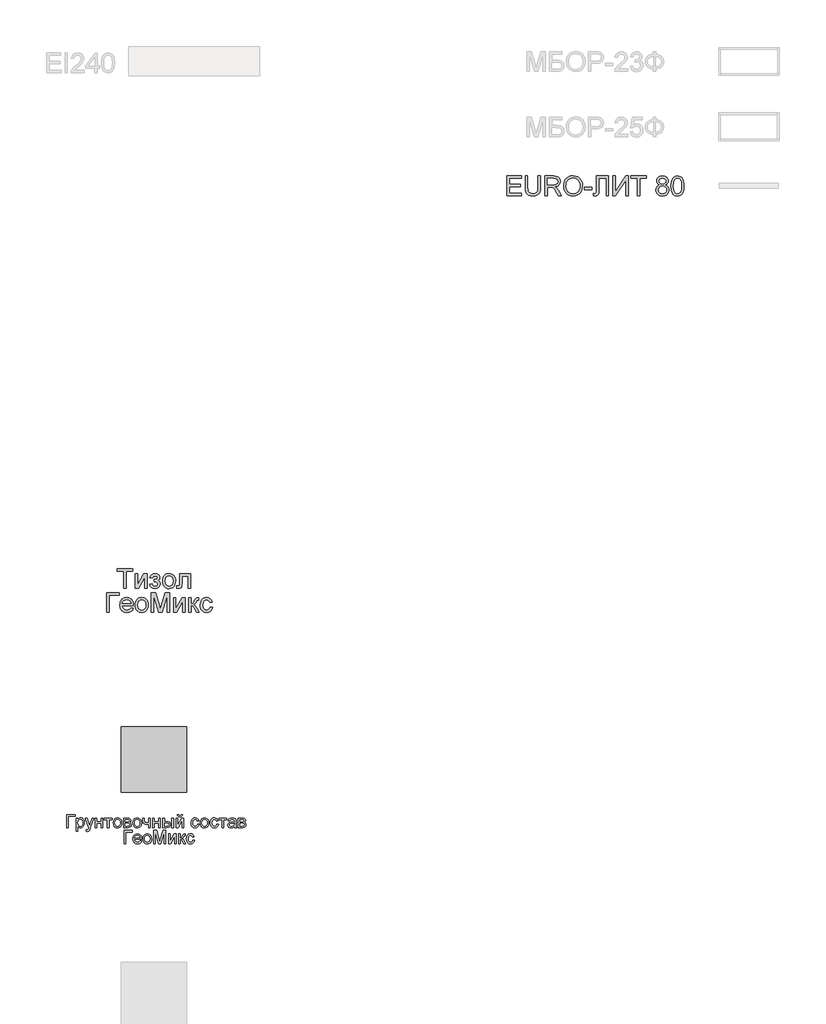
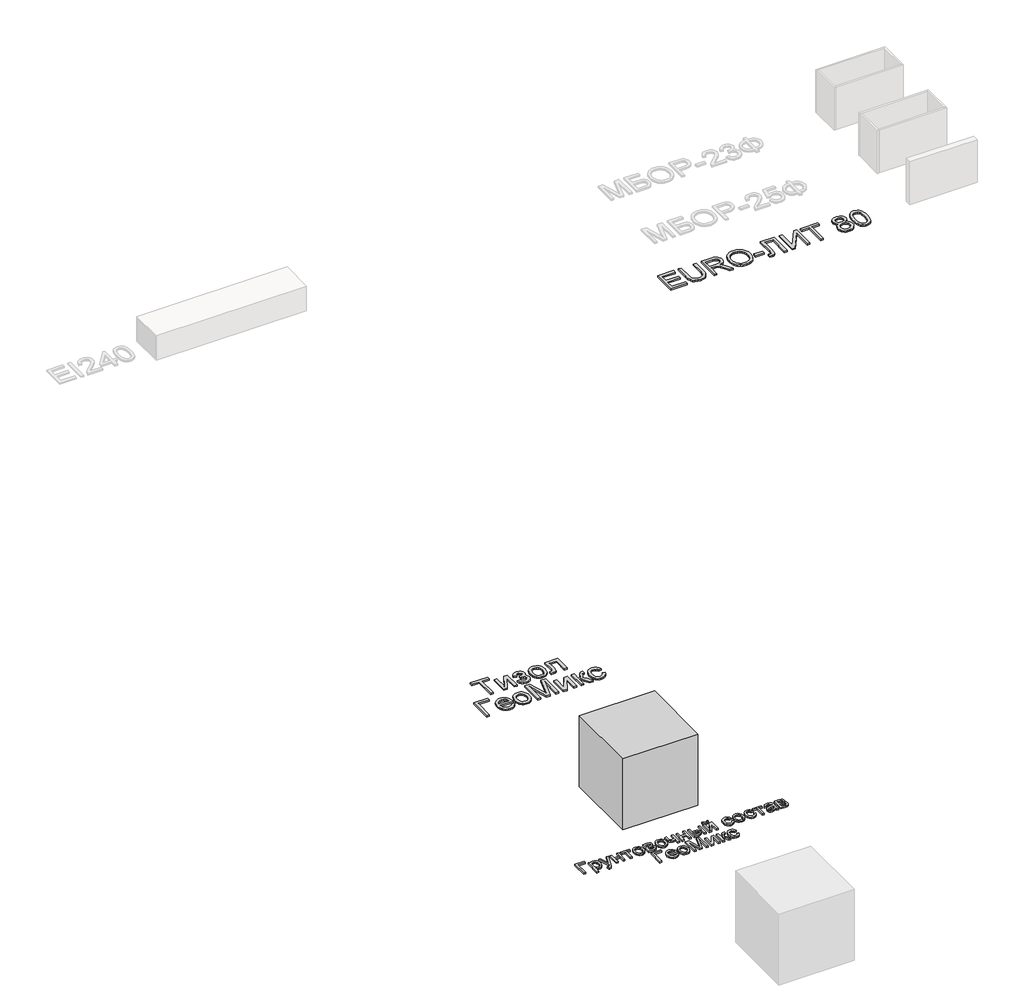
# One storey, part 10 of 35: 4 proxies.
"""IFC4 building model written with IfcOpenShell, lengths in millimetres."""

from ifc_helpers import new_model, si_unit, origin, origin_with_axes, place, context, project, spatial, polyline, outline, extrude, transform, mapped, element, save
from components import generic_models_0168a45e

model = new_model("IFC4")

# Units and contexts
model_context = context("Model", 3, world=origin())
ifc_project = project(units=[si_unit("LENGTHUNIT", "METRE", prefix="MILLI")], contexts=[model_context])

# Site, building, storey
site = spatial("IfcSite", under=ifc_project)
building = spatial("IfcBuilding", under=site)
storey = spatial("IfcBuildingStorey", under=building, Name="Этаж 01", Elevation=0.0)

# Proxies
placement = place(None, origin())
element("IfcBuildingElementProxy", 1, Name="600 мм Arial", ObjectType="600 мм Arial", at=placement, inside=storey, context=model_context, shape_type="SweptSolid", body=[
    extrude(outline(polyline([(7300.4326511, -57210.4960856), (7300.4326511, -56909.1271552), (7517.0415699, -56909.1271552), (7517.0415699, -56946.7982715), (7338.1037674, -56946.7982715), (7338.1037674, -57036.2671727), (7507.6237908, -57036.2671727), (7507.6237908, -57073.938289), (7338.1037674, -57073.938289), (7338.1037674, -57172.8249693), (7521.7504594, -57172.8249693), (7521.7504594, -57210.4960856), (7300.4326511, -57210.4960856)])), origin_with_axes(), (0.0, 0.0, 1.0), 20.0),
    extrude(outline(polyline([(7776.0304945, -56909.1271552), (7813.7016108, -56909.1271552), (7813.7016108, -57082.9881861), (7811.1448309, -57123.7035259), (7803.4744913, -57155.056269), (7789.1454876, -57179.2445102), (7766.6127154, -57198.4663444), (7735.8209924, -57211.0203175), (7696.7151363, -57215.2049752), (7658.4646059, -57211.5629434), (7627.884415, -57200.6368482), (7604.9653667, -57182.8037685), (7589.6982639, -57158.4407833), (7581.1174164, -57125.7636651), (7578.2571339, -57082.9881861), (7578.2571339, -56909.1271552), (7615.9282502, -56909.1271552), (7615.9282502, -57081.6638109), (7617.7860542, -57115.5181515), (7623.3594665, -57139.0901904), (7633.4578272, -57155.4149539), (7648.8904769, -57167.5274686), (7669.0136221, -57175.0322613), (7693.1834692, -57177.5338589), (7731.498379, -57172.585846), (7745.8411782, -57166.40083), (7756.9742071, -57157.7418075), (7765.3113328, -57145.5649135), (7771.2664226, -57128.8262827), (7776.0304945, -57081.6638109), (7776.0304945, -56909.1271552)])), origin_with_axes(), (0.0, 0.0, 1.0), 20.0),
    extrude(outline(polyline([(7879.6260643, -57210.4960856), (7879.6260643, -56909.1271552), (8009.4884086, -56909.1271552), (8044.3912129, -56911.1597032), (8069.7842676, -56917.2573473), (8088.3439143, -56928.5145363), (8102.7464944, -56946.0257193), (8111.9895295, -56967.7399541), (8115.0705412, -56991.6062985), (8109.9661785, -57021.2943755), (8094.6530905, -57045.905681), (8083.0533113, -57055.9350639), (8068.6714246, -57063.9502929), (8031.5613283, -57073.938289), (8052.9720604, -57090.0515204), (8083.506266, -57128.8262827), (8133.7589466, -57210.4960856), (8089.9809892, -57210.4960856), (8050.7647685, -57148.0297229), (8022.4378548, -57106.6797866), (8002.5354389, -57087.1452527), (7984.6195857, -57079.9715538), (7962.7673952, -57078.6471786), (7917.2971806, -57078.6471786), (7917.2971806, -57210.4960856), (7879.6260643, -57210.4960856)]), holes=[polyline([(7917.2971806, -57040.9760623), (8001.6157339, -57040.9760623), (8025.8315662, -57039.64249), (8044.6211392, -57035.6417733), (8058.7662019, -57028.7071977), (8069.0485036, -57018.5720488), (8075.3116946, -57006.3123813), (8077.3994249, -56993.0042501), (8073.4171023, -56974.6285444), (8061.4701345, -56959.8212941), (8040.914728, -56950.0540272), (8011.1070894, -56946.7982715), (7917.2971806, -56946.7982715), (7917.2971806, -57040.9760623)])]), origin_with_axes(), (0.0, 0.0, 1.0), 20.0),
    extrude(outline(polyline([(8166.8683261, -57063.784746), (8169.3791208, -57028.4358848), (8176.9115046, -56997.1429225), (8189.4654777, -56969.9058593), (8207.04104, -56946.7246951), (8228.5851294, -56928.2156322), (8253.0446835, -56914.994873), (8280.4197025, -56907.0624175), (8310.7101863, -56904.4182657), (8350.2391066, -56909.3846726), (8385.6845369, -56924.2838934), (8415.1150965, -56948.0674644), (8436.599405, -56979.6869219), (8449.7327922, -57017.6155556), (8454.110588, -57060.3266552), (8449.502866, -57103.607972), (8435.6797, -57142.0700345), (8413.4044452, -57173.7446743), (8383.4404567, -57196.6637226), (8348.2985291, -57210.569662), (8310.4894571, -57215.2049752), (8270.3535314, -57210.0822184), (8234.7057661, -57194.7139481), (8205.3487828, -57170.4889187), (8184.0852035, -57138.7958848), (8171.1725455, -57102.329582), (8166.8683261, -57063.784746)]), holes=[polyline([(8204.5394425, -57064.152628), (8206.4225384, -57089.1272169), (8212.0718263, -57111.2967056), (8221.4873061, -57130.6610942), (8234.6689779, -57147.2203825), (8250.692538, -57160.4825284), (8268.6336831, -57169.9554898), (8288.492413, -57175.6392666), (8310.2687279, -57177.5338589), (8332.4175232, -57175.6208725), (8352.510778, -57169.8819134), (8370.548492, -57160.3169815), (8386.5306655, -57146.9260769), (8399.6157682, -57130.0173007), (8408.9622701, -57109.8987541), (8414.5701713, -57086.570437), (8416.4394717, -57060.0323496), (8413.2388983, -57026.6838468), (8403.6371782, -56997.8602924), (8387.8826318, -56974.2882536), (8366.2235793, -56956.6942972), (8340.0947606, -56945.7406108), (8310.9309155, -56942.089382), (8289.911058, -56943.8483178), (8270.4087137, -56949.1251251), (8252.4238827, -56957.9198041), (8235.9565648, -56970.2323546), (8222.2115738, -56986.6559864), (8212.3937231, -57007.7839093), (8206.5030126, -57033.6161231), (8204.5394425, -57064.152628)])]), origin_with_axes(), (0.0, 0.0, 1.0), 20.0),
    extrude(outline(polyline([(8482.3639252, -57121.0271844), (8482.3639252, -57083.3560681), (8600.0861637, -57083.3560681), (8600.0861637, -57121.0271844), (8482.3639252, -57121.0271844)])), origin_with_axes(), (0.0, 0.0, 1.0), 20.0),
    extrude(outline(polyline([(8670.7195067, -56909.1271552), (8854.3661987, -56909.1271552), (8854.3661987, -57210.4960856), (8816.6950824, -57210.4960856), (8816.6950824, -56946.7982715), (8708.390623, -56946.7982715), (8708.390623, -57100.5729455), (8704.0128273, -57169.1829376), (8697.2346015, -57188.5703187), (8685.6555157, -57203.1016575), (8669.7998018, -57212.1791458), (8650.1916914, -57215.2049752), (8618.9217218, -57210.4960856), (8623.6306114, -57172.8249693), (8641.6568291, -57177.5338589), (8654.3947432, -57175.0046702), (8663.4722314, -57167.417104), (8668.9076879, -57150.448547), (8670.7195067, -57119.7763856), (8670.7195067, -56909.1271552)])), origin_with_axes(), (0.0, 0.0, 1.0), 20.0),
    extrude(outline(polyline([(8920.2906523, -56909.1271552), (8957.9617686, -56909.1271552), (8957.9617686, -57147.8089937), (9115.7095681, -56909.1271552), (9155.7351292, -56909.1271552), (9155.7351292, -57210.4960856), (9118.0640129, -57210.4960856), (9118.0640129, -56972.4764348), (8960.6840953, -57210.4960856), (8920.2906523, -57210.4960856), (8920.2906523, -56909.1271552)])), origin_with_axes(), (0.0, 0.0, 1.0), 20.0),
    extrude(outline(polyline([(9297.0018153, -57210.4960856), (9297.0018153, -56946.7982715), (9198.115135, -56946.7982715), (9198.115135, -56909.1271552), (9433.5596119, -56909.1271552), (9433.5596119, -56946.7982715), (9334.6729316, -56946.7982715), (9334.6729316, -57210.4960856), (9297.0018153, -57210.4960856)])), origin_with_axes(), (0.0, 0.0, 1.0), 20.0),
    extrude(outline(polyline([(9634.4231813, -57044.5077294), (9614.2540509, -57034.5749156), (9600.0997912, -57021.1104345), (9591.7396728, -57004.3901979), (9588.9529667, -56984.690117), (9590.4704799, -56969.3264452), (9595.0230196, -56955.2411633), (9602.6105858, -56942.4342713), (9613.2331784, -56930.9057693), (9626.3803612, -56921.3776256), (9641.5416979, -56914.5718087), (9677.9068331, -56909.1271552), (9714.4926976, -56914.7005674), (9729.8195812, -56921.6673327), (9743.1690991, -56931.4208041), (9753.9848297, -56943.1746339), (9761.7103516, -56956.1424742), (9766.3456648, -56970.3243251), (9767.8907692, -56985.7201866), (9765.1408512, -57004.785671), (9756.8910975, -57021.2207991), (9743.0495374, -57034.6025067), (9723.5242005, -57044.5077294), (9746.7099633, -57056.4546972), (9763.5865498, -57074.0486536), (9773.8780486, -57096.4434701), (9777.3085482, -57122.793018), (9775.607094, -57141.5825909), (9770.5027313, -57158.8086653), (9761.9954602, -57174.4712413), (9750.0852806, -57188.5703187), (9735.3975919, -57200.2229809), (9718.5577936, -57208.5463111), (9699.5658856, -57213.5403092), (9678.4218679, -57215.2049752), (9657.2778503, -57213.5334114), (9638.2859423, -57208.5187199), (9621.4461439, -57200.1609008), (9606.7584553, -57188.4599541), (9594.8482757, -57174.2620084), (9586.3410045, -57158.4131922), (9581.2366419, -57140.9135055), (9579.5351876, -57121.7629484), (9583.103643, -57094.392528), (9593.809009, -57071.8781499), (9611.0994628, -57054.9923663), (9634.4231813, -57044.5077294)]), holes=[polyline([(9626.624083, -56985.793763), (9629.9626121, -57002.2380882), (9639.9781994, -57015.3714754), (9656.3765394, -57023.9799141), (9678.8633263, -57026.8493937), (9700.8258814, -57023.9983082), (9716.975901, -57015.4450518), (9726.9087149, -57002.753123), (9730.2196529, -56987.4860202), (9726.7983503, -56971.6395032), (9716.5344426, -56958.5337072), (9700.1636938, -56949.7321304), (9678.4218679, -56946.7982715), (9656.5420863, -56949.6677511), (9640.1989286, -56958.2761898), (9630.0177944, -56970.8945422), (9626.624083, -56985.793763)]), polyline([(9617.2063039, -57120.4385732), (9623.4970861, -57148.8022751), (9632.2066923, -57160.969972), (9645.7539468, -57170.0290662), (9661.9775427, -57175.6576607), (9678.7161735, -57177.5338589), (9704.3575486, -57173.5883245), (9723.5977769, -57161.7517213), (9735.6275182, -57143.8266711), (9739.6374319, -57121.6157956), (9735.4987595, -57099.0278411), (9723.0827421, -57080.7073178), (9703.4010554, -57068.5672119), (9677.4653747, -57064.52051), (9652.1826846, -57068.5120296), (9633.1355943, -57080.4865886), (9621.1886265, -57098.457624), (9617.2063039, -57120.4385732)])]), origin_with_axes(), (0.0, 0.0, 1.0), 20.0),
    extrude(outline(polyline([(9810.270775, -57062.2396416), (9813.039087, -57014.001115), (9821.3440231, -56975.5298553), (9835.1028097, -56946.2372515), (9854.2326734, -56925.5346922), (9878.8715701, -56913.2290394), (9909.1574553, -56909.1271552), (9932.3708092, -56911.5551764), (9953.1561419, -56918.8392399), (9970.5385662, -56930.6942372), (9983.5431947, -56946.8350597), (9993.365644, -56967.1237517), (10001.2015305, -56991.4223575), (10006.3334843, -57022.2784599), (10008.0441356, -57062.2396416), (10005.3034147, -57110.2022567), (9997.0812522, -57148.5815459), (9983.405239, -57177.9017409), (9964.3029664, -57198.6870736), (9939.6088875, -57211.0754998), (9909.1574553, -57215.2049752), (9888.4089108, -57213.4115505), (9870.014811, -57208.0312763), (9853.975156, -57199.0641526), (9840.2899458, -57186.5101796), (9827.1565586, -57163.816459), (9817.7755677, -57135.5401291), (9812.1469732, -57101.68119), (9810.270775, -57062.2396416)]), holes=[polyline([(9847.9418913, -57062.1660652), (9852.3564752, -57121.4226576), (9857.8747052, -57141.6906562), (9865.6002271, -57155.7184566), (9885.318702, -57172.0800083), (9909.1574553, -57177.5338589), (9932.9962086, -57172.0616142), (9952.7146835, -57155.6448802), (9960.4402054, -57141.5940872), (9965.9584354, -57121.3306871), (9970.3730193, -57062.1660652), (9966.1055882, -57004.2430451), (9960.7712992, -56984.041725), (9953.3032947, -56969.6805316), (9933.621608, -56952.5188365), (9908.7159969, -56946.7982715), (9885.134761, -56951.8382548), (9866.1888383, -56966.9582048), (9858.205799, -56982.5931896), (9852.503628, -57003.672828), (9847.9418913, -57062.1660652)])]), origin_with_axes(), (0.0, 0.0, 1.0), 20.0),
])
element("IfcBuildingElementProxy", 2, Name="600 мм Arial", ObjectType="600 мм Arial", at=placement, inside=storey, context=model_context, shape_type="SweptSolid", body=[
    extrude(outline(polyline([(1437.6102066, -63214.5066797), (1437.6102066, -62950.8088656), (1338.7235263, -62950.8088656), (1338.7235263, -62913.1377493), (1574.1680032, -62913.1377493), (1574.1680032, -62950.8088656), (1475.2813229, -62950.8088656), (1475.2813229, -63214.5066797), (1437.6102066, -63214.5066797)])), origin_with_axes(), (0.0, 0.0, 1.0), 20.0),
    extrude(outline(polyline([(1611.8391195, -62993.1888714), (1649.5102358, -62993.1888714), (1649.5102358, -63161.9731308), (1742.0693458, -62993.1888714), (1790.776922, -62993.1888714), (1790.776922, -63214.5066797), (1753.1058056, -63214.5066797), (1753.1058056, -63046.7524899), (1661.1353069, -63214.5066797), (1611.8391195, -63214.5066797), (1611.8391195, -62993.1888714)])), origin_with_axes(), (0.0, 0.0, 1.0), 20.0),
    extrude(outline(polyline([(1899.0813813, -63115.6199994), (1899.0813813, -63077.9488831), (1928.8062465, -63076.4773551), (1943.8158319, -63068.6414686), (1949.1133327, -63061.2930258), (1950.8791663, -63052.2707199), (1948.5155244, -63041.5561567), (1941.424599, -63033.2512207), (1930.5996713, -63027.9261288), (1917.0340227, -63026.1510982), (1903.3212213, -63027.9169318), (1891.834106, -63033.2144325), (1882.5726768, -63042.0436004), (1875.5369336, -63054.4044354), (1833.1569278, -63049.6955459), (1844.3957227, -63022.9137366), (1861.4838414, -63003.7838729), (1884.4212838, -62992.3059546), (1913.2080499, -62988.4799819), (1944.6987487, -62993.1428862), (1968.537502, -63007.131599), (1983.5470874, -63027.595035), (1988.5502826, -63051.6821087), (1986.7706534, -63064.0429437), (1981.431766, -63075.0794036), (1972.5336202, -63084.7914882), (1960.0762161, -63093.1791977), (1974.616752, -63103.6454405), (1984.9818272, -63116.650069), (1991.1898359, -63132.2298715), (1993.2591721, -63150.4216362), (1988.0076566, -63178.1507416), (1972.2531102, -63200.1224937), (1947.0623906, -63214.4423004), (1913.5023555, -63219.2155693), (1880.6780845, -63214.8009853), (1855.5609413, -63201.5572335), (1838.1509259, -63179.4843138), (1828.4480383, -63148.5822262), (1870.8280441, -63143.8733367), (1877.1740085, -63159.802627), (1887.8241923, -63171.6852155), (1901.5461907, -63179.0796436), (1917.1075991, -63181.544453), (1932.2643373, -63179.1808111), (1944.6251723, -63172.0898857), (1952.8473349, -63161.3201403), (1955.5880558, -63147.9200386), (1953.8866016, -63137.306643), (1948.7822389, -63128.1279873), (1934.2876883, -63117.5329858), (1906.4390212, -63115.3992702), (1899.0813813, -63115.6199994)])), origin_with_axes(), (0.0, 0.0, 1.0), 20.0),
    extrude(outline(polyline([(2030.9302884, -63103.8477756), (2032.967435, -63075.1851696), (2039.0788746, -63050.4864922), (2049.2646073, -63029.7517432), (2063.5246332, -63012.9809228), (2077.881228, -63002.2617611), (2093.727745, -62994.6052171), (2111.064184, -62990.0112907), (2129.8905451, -62988.4799819), (2150.6735786, -62990.3446838), (2169.4654507, -62995.9387893), (2186.2661616, -63005.2622987), (2201.0757112, -63018.3152117), (2213.162934, -63034.6560701), (2221.7966646, -63053.8434154), (2226.9769029, -63075.8772476), (2228.703649, -63100.7575668), (2225.6502285, -63138.8149592), (2216.4899668, -63167.7856663), (2201.4895784, -63189.481507), (2180.9157778, -63205.7143), (2156.4792163, -63215.840252), (2129.8905451, -63219.2155693), (2108.804009, -63217.3577652), (2089.8373929, -63211.784353), (2072.9906968, -63202.4953326), (2058.2639206, -63189.4907041), (2046.3054565, -63172.9911966), (2037.7636965, -63153.2175393), (2032.6386404, -63130.1697323), (2030.9302884, -63103.8477756)]), holes=[polyline([(2068.6014047, -63103.7741992), (2072.9608064, -63137.8676631), (2086.0390113, -63162.1570718), (2105.720698, -63176.6976077), (2129.8905451, -63181.544453), (2153.9500276, -63176.6700165), (2173.5949261, -63162.0467072), (2186.6731311, -63137.4354017), (2191.0325327, -63102.5969768), (2186.6455399, -63069.4967943), (2173.4845615, -63045.5384793), (2153.8120718, -63030.9979435), (2129.8905451, -63026.1510982), (2105.720698, -63030.9795494), (2086.0390113, -63045.4649029), (2072.9608064, -63069.6991294), (2068.6014047, -63103.7741992)])]), origin_with_axes(), (0.0, 0.0, 1.0), 20.0),
    extrude(outline(polyline([(2289.919213, -62993.1888714), (2459.4392364, -62993.1888714), (2459.4392364, -63214.2859505), (2421.7681201, -63214.2859505), (2421.7681201, -63030.8599877), (2327.5903293, -63030.8599877), (2327.5903293, -63136.4421204), (2325.0519435, -63185.1496965), (2320.2970688, -63196.1769593), (2311.1092159, -63205.7143), (2297.1664883, -63212.3085848), (2278.1469892, -63214.5066797), (2247.5392072, -63212.5936934), (2247.5392072, -63176.8355634), (2264.3882025, -63176.8355634), (2281.4211389, -63174.5179069), (2288.2269558, -63167.1602669), (2289.919213, -63134.3084048), (2289.919213, -62993.1888714)])), origin_with_axes(), (0.0, 0.0, 1.0), 20.0),
    extrude(outline(polyline([(1173.9123924, -63279.0622028), (1362.267974, -63279.0622028), (1362.267974, -63316.7333191), (1211.5835087, -63316.7333191), (1211.5835087, -63580.4311333), (1173.9123924, -63580.4311333), (1173.9123924, -63279.0622028)])), origin_with_axes(), (0.0, 0.0, 1.0), 20.0),
    extrude(outline(polyline([(1545.4732076, -63514.5066797), (1582.4085599, -63519.2155693), (1569.1004287, -63547.0458422), (1547.8644405, -63567.849569), (1519.178842, -63580.8174094), (1483.5218796, -63585.1400228), (1460.1475773, -63583.2753209), (1439.3208579, -63577.6812153), (1421.0417212, -63568.357706), (1405.3101674, -63555.304793), (1392.6596253, -63538.8857597), (1383.6235238, -63519.4638896), (1378.2018629, -63497.0391827), (1376.3946426, -63471.6116391), (1378.220257, -63445.321872), (1383.6971002, -63422.1499048), (1392.8251722, -63402.0957376), (1405.604473, -63385.1593702), (1421.2946401, -63371.7040862), (1439.155311, -63362.0931691), (1459.1864856, -63356.3266189), (1481.388164, -63354.4044354), (1502.8747718, -63356.3220203), (1522.3058389, -63362.074775), (1539.6813654, -63371.6626995), (1555.0013512, -63385.0857938), (1567.5070398, -63401.985373), (1576.4396745, -63422.002752), (1581.7992553, -63445.137931), (1583.5857823, -63471.3909099), (1583.3650531, -63481.544453), (1414.0657589, -63481.544453), (1420.5864673, -63509.7426079), (1435.7340084, -63530.4727583), (1457.595396, -63543.2198695), (1484.2576436, -63547.4689065), (1504.3072123, -63545.5007378), (1521.1929959, -63539.5962318), (1534.9149943, -63529.3875064), (1545.4732076, -63514.5066797)]), holes=[polyline([(1414.0657589, -63443.8733367), (1545.914666, -63443.8733367), (1540.8195003, -63423.9709207), (1530.8315042, -63409.7338875), (1508.868949, -63396.4901357), (1481.2410112, -63392.0755517), (1455.8479565, -63395.5980218), (1434.8510916, -63406.1654321), (1420.2553735, -63422.6373485), (1414.0657589, -63443.8733367)])]), origin_with_axes(), (0.0, 0.0, 1.0), 20.0),
    extrude(outline(polyline([(1611.8391195, -63469.7722291), (1613.876266, -63441.1096232), (1619.9877057, -63416.4109457), (1630.1734384, -63395.6761968), (1644.4334643, -63378.9053763), (1658.7900591, -63368.1862147), (1674.6365761, -63360.5296706), (1691.9730151, -63355.9357442), (1710.7993762, -63354.4044354), (1731.5824097, -63356.2691373), (1750.3742818, -63361.8632429), (1767.1749927, -63371.1867522), (1781.9845423, -63384.2396652), (1794.0717651, -63400.5805236), (1802.7054956, -63419.7678689), (1807.885734, -63441.8017012), (1809.6124801, -63466.6820204), (1806.5590595, -63504.7394128), (1797.3987979, -63533.7101199), (1782.3984095, -63555.4059605), (1761.8246089, -63571.6387536), (1737.3880474, -63581.7647055), (1710.7993762, -63585.1400228), (1689.7128401, -63583.2822187), (1670.746224, -63577.7088065), (1653.8995279, -63568.4197861), (1639.1727517, -63555.4151576), (1627.2142876, -63538.9156501), (1618.6725276, -63519.1419929), (1613.5474715, -63496.0941859), (1611.8391195, -63469.7722291)]), holes=[polyline([(1649.5102358, -63469.6986527), (1653.8696374, -63503.7921166), (1666.9478424, -63528.0815253), (1686.6295291, -63542.6220612), (1710.7993762, -63547.4689065), (1734.8588587, -63542.5944701), (1754.5037572, -63527.9711608), (1767.5819622, -63503.3598553), (1771.9413638, -63468.5214303), (1767.554371, -63435.4212478), (1754.3933926, -63411.4629329), (1734.7209029, -63396.922397), (1710.7993762, -63392.0755517), (1686.6295291, -63396.9040029), (1666.9478424, -63411.3893565), (1653.8696374, -63435.6235829), (1649.5102358, -63469.6986527)])]), origin_with_axes(), (0.0, 0.0, 1.0), 20.0),
    extrude(outline(polyline([(1856.7013755, -63580.4311333), (1856.7013755, -63279.0622028), (1921.522183, -63279.0622028), (1983.1792054, -63491.4772668), (1995.6136169, -63535.8438354), (2009.0780979, -63487.7984469), (2069.7050507, -63279.0622028), (2134.5258582, -63279.0622028), (2134.5258582, -63580.4311333), (2096.8547419, -63580.4311333), (2096.8547419, -63316.7333191), (2021.1446273, -63580.4311333), (1970.0826064, -63580.4311333), (1894.3724918, -63316.7333191), (1894.3724918, -63580.4311333), (1856.7013755, -63580.4311333)])), origin_with_axes(), (0.0, 0.0, 1.0), 20.0),
    extrude(outline(polyline([(2195.7414222, -63359.113325), (2233.4125385, -63359.113325), (2233.4125385, -63527.8975844), (2325.9716485, -63359.113325), (2374.6792247, -63359.113325), (2374.6792247, -63580.4311333), (2337.0081084, -63580.4311333), (2337.0081084, -63412.6769435), (2245.0376096, -63580.4311333), (2195.7414222, -63580.4311333), (2195.7414222, -63359.113325)])), origin_with_axes(), (0.0, 0.0, 1.0), 20.0),
    extrude(outline(polyline([(2431.1858992, -63359.113325), (2468.8570155, -63359.113325), (2468.8570155, -63453.2911157), (2484.1793006, -63451.5988586), (2494.0937203, -63446.522087), (2502.8677059, -63433.2783352), (2514.7686885, -63407.0851371), (2531.9487776, -63373.0560526), (2547.1055158, -63361.9828045), (2574.6598773, -63359.113325), (2581.8703644, -63359.113325), (2581.8703644, -63397.0051705), (2571.7168213, -63396.7844413), (2553.3227216, -63400.7575668), (2540.3732753, -63425.5528133), (2525.1797489, -63452.3714107), (2503.8793814, -63465.504798), (2515.8171521, -63470.8068972), (2527.6445583, -63480.1648955), (2550.9682768, -63511.048589), (2591.2881435, -63580.4311333), (2548.4666792, -63580.4311333), (2508.9561529, -63512.520117), (2489.0905252, -63483.7885331), (2479.8015048, -63478.5738058), (2468.8570155, -63476.8355634), (2468.8570155, -63580.4311333), (2431.1858992, -63580.4311333), (2431.1858992, -63359.113325)])), origin_with_axes(), (0.0, 0.0, 1.0), 20.0),
    extrude(outline(polyline([(2756.0992773, -63500.3800111), (2793.7703936, -63505.0889007), (2783.2673626, -63538.5937534), (2763.5304936, -63563.9132317), (2736.4175906, -63579.833325), (2703.7864576, -63585.1400228), (2682.6585347, -63583.2891165), (2663.7149113, -63577.7363976), (2646.9555871, -63568.4818662), (2632.3805623, -63555.5255222), (2620.5830466, -63539.1110874), (2612.1562496, -63519.4822837), (2607.1001715, -63496.6391111), (2605.4148121, -63470.5815695), (2608.2934887, -63437.0583227), (2616.9295185, -63408.0048421), (2631.4608573, -63384.5431679), (2652.0254609, -63367.7953401), (2676.6275693, -63357.7521616), (2703.2714228, -63354.4044354), (2735.1024124, -63359.0029604), (2760.5506494, -63372.7985352), (2778.8067934, -63395.0553959), (2789.0615041, -63425.0377785), (2751.3903878, -63429.746668), (2744.5569797, -63413.3115399), (2733.915993, -63401.530119), (2720.0560388, -63394.4391936), (2703.5657284, -63392.0755517), (2679.2211374, -63396.729259), (2659.8981356, -63410.6903807), (2647.2889802, -63434.713075), (2643.0859284, -63469.5514999), (2647.1970097, -63504.8589744), (2659.5302536, -63528.9644421), (2678.5037675, -63542.8427904), (2702.5356588, -63547.4689065), (2722.0426016, -63544.5810328), (2738.0362713, -63535.9174118), (2749.6705394, -63521.2573143), (2756.0992773, -63500.3800111)])), origin_with_axes(), (0.0, 0.0, 1.0), 20.0),
])
element("IfcBuildingElementProxy", 3, Name="400 мм Arial", ObjectType="400 мм Arial", at=placement, inside=storey, context=model_context, shape_type="SweptSolid", body=[
    extrude(outline(polyline([(564.1111972, -66673.5940594), (689.6815849, -66673.5940594), (689.6815849, -66698.708137), (589.2252748, -66698.708137), (589.2252748, -66874.5066797), (564.1111972, -66874.5066797), (564.1111972, -66673.5940594)])), origin_with_axes(), (0.0, 0.0, 1.0), 20.0),
    extrude(outline(polyline([(708.5171431, -66931.0133542), (708.5171431, -66726.9614742), (733.6312206, -66726.9614742), (733.6312206, -66751.5850424), (750.9952508, -66730.7629215), (761.6883541, -66725.5573912), (774.4415966, -66723.8222145), (791.4254821, -66726.2502357), (806.2756519, -66733.5342992), (818.3667068, -66745.2329466), (827.0732474, -66760.9047196), (832.3339599, -66779.409184), (834.0875308, -66799.6059055), (832.1070994, -66821.0840827), (826.1658051, -66840.2936542), (816.4537205, -66856.2597328), (803.1609177, -66868.0074311), (787.6792171, -66875.2363124), (771.4004388, -66877.6459394), (759.8550755, -66876.03339), (749.5482483, -66871.1957418), (733.6312206, -66854.8863067), (733.6312206, -66931.0133542), (708.5171431, -66931.0133542)]), holes=[polyline([(733.6312206, -66801.9112993), (736.347416, -66824.4256774), (744.4960022, -66840.1710268), (756.5196121, -66849.4416531), (770.8608785, -66852.5318619), (785.4351369, -66849.3312885), (797.7653151, -66839.7295684), (806.1714187, -66823.4078706), (808.9734532, -66800.0473639), (806.2388637, -66777.6556131), (798.0350952, -66761.6895345), (786.0298795, -66752.1246027), (771.8909481, -66748.936292), (757.6968345, -66752.3269378), (745.2317662, -66762.4988749), (736.531357, -66779.1332725), (733.6312206, -66801.9112993)])]), origin_with_axes(), (0.0, 0.0, 1.0), 20.0),
    extrude(outline(polyline([(862.340868, -66931.0133542), (859.2016083, -66906.8312444), (871.9548508, -66909.0385363), (883.8742274, -66906.2671586), (891.1828164, -66898.5416367), (898.049947, -66880.0494351), (900.0119843, -66873.9671195), (846.6445695, -66726.9614742), (873.1320732, -66726.9614742), (901.4344613, -66808.8765318), (911.2936988, -66841.6425548), (921.1529363, -66812.7025045), (950.2401394, -66726.9614742), (976.5314393, -66726.9614742), (925.1751128, -66878.0383469), (911.8332591, -66910.8043699), (897.2651321, -66928.5117566), (877.6938099, -66934.1526139), (862.340868, -66931.0133542)])), origin_with_axes(), (0.0, 0.0, 1.0), 20.0),
    extrude(outline(polyline([(997.3290348, -66726.9614742), (1022.4431123, -66726.9614742), (1022.4431123, -66783.4681487), (1088.3675658, -66783.4681487), (1088.3675658, -66726.9614742), (1113.4816434, -66726.9614742), (1113.4816434, -66874.5066797), (1088.3675658, -66874.5066797), (1088.3675658, -66808.5822262), (1022.4431123, -66808.5822262), (1022.4431123, -66874.5066797), (997.3290348, -66874.5066797), (997.3290348, -66726.9614742)])), origin_with_axes(), (0.0, 0.0, 1.0), 20.0),
    extrude(outline(polyline([(1138.5957209, -66726.9614742), (1257.8875892, -66726.9614742), (1257.8875892, -66752.0755517), (1210.7986938, -66752.0755517), (1210.7986938, -66874.5066797), (1185.6846163, -66874.5066797), (1185.6846163, -66752.0755517), (1138.5957209, -66752.0755517), (1138.5957209, -66726.9614742)])), origin_with_axes(), (0.0, 0.0, 1.0), 20.0),
    extrude(outline(polyline([(1273.5838877, -66800.734077), (1279.0162785, -66765.159888), (1285.806767, -66751.3367221), (1295.3134508, -66740.1561751), (1315.4488587, -66727.9057046), (1339.5573921, -66723.8222145), (1365.9406626, -66728.7947528), (1387.0141695, -66743.7123677), (1400.8281384, -66767.3978368), (1405.4327947, -66798.6739378), (1403.397181, -66824.0455327), (1397.2903399, -66843.3593375), (1387.290081, -66857.8232312), (1373.574214, -66868.6450933), (1357.2831729, -66875.3957279), (1339.5573921, -66877.6459394), (1312.8552907, -66872.6917952), (1291.8063092, -66857.8293626), (1278.139493, -66833.6472528), (1273.5838877, -66800.734077)]), holes=[polyline([(1298.6979652, -66800.685026), (1301.604233, -66823.414002), (1310.3230363, -66839.6069411), (1323.4441607, -66849.3006317), (1339.5573921, -66852.5318619), (1355.5970471, -66849.2822376), (1368.6936462, -66839.5333647), (1377.4124494, -66823.1258277), (1380.3187172, -66799.9002111), (1377.3940553, -66777.8334228), (1368.6200698, -66761.8612128), (1355.5050766, -66752.1675222), (1339.5573921, -66748.936292), (1323.4441607, -66752.1552595), (1310.3230363, -66761.8121619), (1301.604233, -66777.9683128), (1298.6979652, -66800.685026)])]), origin_with_axes(), (0.0, 0.0, 1.0), 20.0),
    extrude(outline(polyline([(1433.686132, -66726.9614742), (1489.015584, -66726.9614742), (1519.3535859, -66730.3214631), (1536.4233105, -66742.6332472), (1541.7759935, -66752.4740906), (1543.5602212, -66764.0930302), (1539.2437391, -66781.5306368), (1526.245242, -66793.9650482), (1535.5403937, -66799.1828412), (1543.1187628, -66807.5766821), (1548.1587461, -66818.4843832), (1549.8387406, -66831.2437571), (1545.5835722, -66850.3858836), (1535.4668173, -66863.8626273), (1519.4516878, -66871.8456666), (1497.5013954, -66874.5066797), (1433.686132, -66874.5066797), (1433.686132, -66726.9614742)]), holes=[polyline([(1458.8002095, -66849.3926022), (1489.6041952, -66849.3926022), (1506.3918769, -66848.2582994), (1516.9255647, -66844.8553909), (1522.5786847, -66838.668842), (1524.724663, -66829.1836179), (1520.4327064, -66817.092563), (1509.2490938, -66810.0537542), (1487.1516486, -66808.5822262), (1458.8002095, -66808.5822262), (1458.8002095, -66849.3926022)]), polyline([(1458.8002095, -66783.4681487), (1483.6199814, -66783.4681487), (1504.0987458, -66782.1928244), (1514.0560852, -66777.0915274), (1518.4461437, -66767.8699521), (1516.5208945, -66760.3774221), (1510.7451472, -66755.558168), (1484.4047964, -66752.0755517), (1458.8002095, -66752.0755517), (1458.8002095, -66783.4681487)])]), origin_with_axes(), (0.0, 0.0, 1.0), 20.0),
    extrude(outline(polyline([(1574.9528181, -66800.734077), (1580.3852089, -66765.159888), (1587.1756974, -66751.3367221), (1596.6823813, -66740.1561751), (1616.8177892, -66727.9057046), (1640.9263226, -66723.8222145), (1667.309593, -66728.7947528), (1688.3831, -66743.7123677), (1702.1970689, -66767.3978368), (1706.8017252, -66798.6739378), (1704.7661115, -66824.0455327), (1698.6592704, -66843.3593375), (1688.6590115, -66857.8232312), (1674.9431444, -66868.6450933), (1658.6521034, -66875.3957279), (1640.9263226, -66877.6459394), (1614.2242211, -66872.6917952), (1593.1752396, -66857.8293626), (1579.5084235, -66833.6472528), (1574.9528181, -66800.734077)]), holes=[polyline([(1600.0668957, -66800.685026), (1602.9731634, -66823.414002), (1611.6919667, -66839.6069411), (1624.8130912, -66849.3006317), (1640.9263226, -66852.5318619), (1656.9659776, -66849.2822376), (1670.0625766, -66839.5333647), (1678.7813799, -66823.1258277), (1681.6876476, -66799.9002111), (1678.7629858, -66777.8334228), (1669.9890002, -66761.8612128), (1656.8740071, -66752.1675222), (1640.9263226, -66748.936292), (1624.8130912, -66752.1552595), (1611.6919667, -66761.8121619), (1602.9731634, -66777.9683128), (1600.0668957, -66800.685026)])]), origin_with_axes(), (0.0, 0.0, 1.0), 20.0),
    extrude(outline(polyline([(1725.6372833, -66726.9614742), (1750.7513609, -66726.9614742), (1750.7513609, -66755.2638624), (1752.7869746, -66781.8004169), (1762.5726357, -66796.1723402), (1771.3037017, -66800.7708652), (1781.996805, -66802.3037068), (1816.6758144, -66794.7008122), (1816.6758144, -66726.9614742), (1841.789892, -66726.9614742), (1841.789892, -66874.5066797), (1816.6758144, -66874.5066797), (1816.6758144, -66818.7848202), (1795.2405568, -66825.2595433), (1775.2768272, -66827.4177843), (1760.0894322, -66825.1675728), (1746.8027608, -66818.4169382), (1736.4468826, -66808.4044166), (1730.0518673, -66796.368544), (1725.6372833, -66767.6737483), (1725.6372833, -66726.9614742)])), origin_with_axes(), (0.0, 0.0, 1.0), 20.0),
    extrude(outline(polyline([(1879.4610083, -66726.9614742), (1904.5750858, -66726.9614742), (1904.5750858, -66783.4681487), (1970.4995393, -66783.4681487), (1970.4995393, -66726.9614742), (1995.6136169, -66726.9614742), (1995.6136169, -66874.5066797), (1970.4995393, -66874.5066797), (1970.4995393, -66808.5822262), (1904.5750858, -66808.5822262), (1904.5750858, -66874.5066797), (1879.4610083, -66874.5066797), (1879.4610083, -66726.9614742)])), origin_with_axes(), (0.0, 0.0, 1.0), 20.0),
    extrude(outline(polyline([(2033.2847332, -66726.9614742), (2058.3988107, -66726.9614742), (2058.3988107, -66780.328889), (2089.4480511, -66780.328889), (2116.2850427, -66783.47428), (2136.1690645, -66792.9104532), (2148.4747172, -66807.877119), (2152.5766015, -66827.6139881), (2149.1369048, -66845.5850235), (2138.8178149, -66860.7478931), (2120.9448813, -66871.0669831), (2094.8436537, -66874.5066797), (2033.2847332, -66874.5066797), (2033.2847332, -66726.9614742)]), holes=[polyline([(2058.3988107, -66849.3926022), (2084.1996013, -66849.3926022), (2104.2001191, -66848.0743584), (2117.5051846, -66844.1196269), (2124.9731891, -66837.3689923), (2127.4625239, -66827.663039), (2125.6169826, -66819.4592705), (2120.0803586, -66812.2119952), (2108.2406897, -66807.1352237), (2087.4860138, -66805.4429665), (2058.3988107, -66805.4429665), (2058.3988107, -66849.3926022)])]), origin_with_axes(), (0.0, 0.0, 1.0), 20.0),
    extrude(outline(polyline([(2171.4121596, -66726.9614742), (2196.5262372, -66726.9614742), (2196.5262372, -66874.5066797), (2171.4121596, -66874.5066797), (2171.4121596, -66726.9614742)])), origin_with_axes(), (0.0, 0.0, 1.0), 20.0),
    extrude(outline(polyline([(2234.1973535, -66726.9614742), (2259.311431, -66726.9614742), (2259.311431, -66839.4843138), (2321.0175043, -66726.9614742), (2353.4892218, -66726.9614742), (2353.4892218, -66874.5066797), (2328.3751442, -66874.5066797), (2328.3751442, -66762.6705532), (2267.0614784, -66874.5066797), (2234.1973535, -66874.5066797), (2234.1973535, -66726.9614742)])), origin_with_axes(), (0.0, 0.0, 1.0), 20.0),
    extrude(outline(polyline([(2315.8181055, -66673.5940594), (2334.6536636, -66673.5940594), (2330.6008303, -66689.676634), (2322.4645068, -66701.5285656), (2310.6125752, -66708.8310232), (2295.4129175, -66711.2651757), (2278.9195414, -66708.8494173), (2266.1295107, -66701.602142), (2257.3861819, -66689.7686045), (2253.0329116, -66673.5940594), (2271.8684698, -66673.5940594), (2278.9318041, -66687.7452535), (2293.1565746, -66692.4296176), (2308.7547712, -66687.8924063), (2315.8181055, -66673.5940594)])), origin_with_axes(), (0.0, 0.0, 1.0), 20.0),
    extrude(outline(polyline([(2563.8196212, -66821.139265), (2588.9336987, -66824.2785247), (2581.931678, -66846.6150931), (2568.7737654, -66863.4947453), (2550.6984967, -66874.1081409), (2528.944408, -66877.6459394), (2502.2300438, -66872.7101893), (2481.3404778, -66857.902939), (2467.8576027, -66833.8741134), (2463.363311, -66801.2736372), (2465.2824287, -66778.924806), (2471.039782, -66759.555819), (2480.7273412, -66743.9147028), (2494.4370769, -66732.7494843), (2510.8384825, -66726.0540319), (2528.6010515, -66723.8222145), (2549.8217112, -66726.8878978), (2566.7872026, -66736.0849477), (2578.9579653, -66750.9228548), (2585.794439, -66770.9111099), (2560.6803615, -66774.0503696), (2556.1247561, -66763.0936175), (2549.0307649, -66755.2393369), (2539.7907955, -66750.5120533), (2528.7972552, -66748.936292), (2512.5675279, -66752.0387635), (2499.6855267, -66761.346178), (2491.2794231, -66777.3613075), (2488.4773885, -66800.5869242), (2491.2181094, -66824.1252405), (2499.440272, -66840.1955523), (2512.0892813, -66849.4477845), (2528.1105422, -66852.5318619), (2541.1151707, -66850.6066128), (2551.7776172, -66844.8308654), (2559.5337959, -66835.0574671), (2563.8196212, -66821.139265)])), origin_with_axes(), (0.0, 0.0, 1.0), 20.0),
    extrude(outline(polyline([(2604.6299971, -66800.734077), (2610.0623879, -66765.159888), (2616.8528764, -66751.3367221), (2626.3595603, -66740.1561751), (2646.4949682, -66727.9057046), (2670.6035016, -66723.8222145), (2696.986772, -66728.7947528), (2718.060279, -66743.7123677), (2731.8742479, -66767.3978368), (2736.4789042, -66798.6739378), (2734.4432905, -66824.0455327), (2728.3364494, -66843.3593375), (2718.3361905, -66857.8232312), (2704.6203234, -66868.6450933), (2688.3292824, -66875.3957279), (2670.6035016, -66877.6459394), (2643.9014001, -66872.6917952), (2622.8524186, -66857.8293626), (2609.1856025, -66833.6472528), (2604.6299971, -66800.734077)]), holes=[polyline([(2629.7440747, -66800.685026), (2632.6503424, -66823.414002), (2641.3691457, -66839.6069411), (2654.4902702, -66849.3006317), (2670.6035016, -66852.5318619), (2686.6431566, -66849.2822376), (2699.7397556, -66839.5333647), (2708.4585589, -66823.1258277), (2711.3648267, -66799.9002111), (2708.4401648, -66777.8334228), (2699.6661792, -66761.8612128), (2686.5511861, -66752.1675222), (2670.6035016, -66748.936292), (2654.4902702, -66752.1552595), (2641.3691457, -66761.8121619), (2632.6503424, -66777.9683128), (2629.7440747, -66800.685026)])]), origin_with_axes(), (0.0, 0.0, 1.0), 20.0),
    extrude(outline(polyline([(2858.9100322, -66821.139265), (2884.0241098, -66824.2785247), (2877.0220891, -66846.6150931), (2863.8641764, -66863.4947453), (2845.7889077, -66874.1081409), (2824.0348191, -66877.6459394), (2797.3204549, -66872.7101893), (2776.4308889, -66857.902939), (2762.9480138, -66833.8741134), (2758.4537221, -66801.2736372), (2760.3728398, -66778.924806), (2766.130193, -66759.555819), (2775.8177522, -66743.9147028), (2789.5274879, -66732.7494843), (2805.9288935, -66726.0540319), (2823.6914625, -66723.8222145), (2844.9121223, -66726.8878978), (2861.8776136, -66736.0849477), (2874.0483763, -66750.9228548), (2880.8848501, -66770.9111099), (2855.7707725, -66774.0503696), (2851.2151671, -66763.0936175), (2844.121176, -66755.2393369), (2834.8812066, -66750.5120533), (2823.8876663, -66748.936292), (2807.6579389, -66752.0387635), (2794.7759377, -66761.346178), (2786.3698341, -66777.3613075), (2783.5677996, -66800.5869242), (2786.3085205, -66824.1252405), (2794.5306831, -66840.1955523), (2807.1796923, -66849.4477845), (2823.2009532, -66852.5318619), (2836.2055817, -66850.6066128), (2846.8680282, -66844.8308654), (2854.624207, -66835.0574671), (2858.9100322, -66821.139265)])), origin_with_axes(), (0.0, 0.0, 1.0), 20.0),
    extrude(outline(polyline([(2893.4418888, -66726.9614742), (3012.7337571, -66726.9614742), (3012.7337571, -66752.0755517), (2965.6448617, -66752.0755517), (2965.6448617, -66874.5066797), (2940.5307842, -66874.5066797), (2940.5307842, -66752.0755517), (2893.4418888, -66752.0755517), (2893.4418888, -66726.9614742)])), origin_with_axes(), (0.0, 0.0, 1.0), 20.0),
    extrude(outline(polyline([(3128.8863657, -66855.6711216), (3104.5325777, -66872.6917952), (3077.6281411, -66877.6459394), (3056.6404733, -66874.6660953), (3041.1587726, -66865.7265628), (3031.6122349, -66852.1517172), (3028.4300556, -66835.2659336), (3033.237047, -66815.4003058), (3045.8676622, -66800.9793316), (3063.4524215, -66792.7387749), (3085.1819847, -66788.9618531), (3128.7392129, -66780.328889), (3128.8863657, -66774.7370826), (3127.1573204, -66763.5289445), (3121.9701842, -66756.1958301), (3110.3696387, -66750.7511765), (3094.2073563, -66748.936292), (3079.2468219, -66750.1441713), (3068.7989732, -66753.7678089), (3061.6743252, -66760.4693926), (3056.6833928, -66770.9111099), (3031.5693153, -66767.7718502), (3042.4340969, -66743.2463838), (3051.6924604, -66734.9935644), (3064.3108129, -66728.8744606), (3097.4447179, -66723.8222145), (3127.8808216, -66728.2858494), (3145.0731735, -66739.4939875), (3152.77417, -66756.5391866), (3154.0004433, -66778.5140045), (3154.0004433, -66809.7594486), (3155.2757675, -66853.3902532), (3160.2789627, -66874.5066797), (3135.1648851, -66874.5066797), (3128.8863657, -66855.6711216)]), holes=[polyline([(3128.8863657, -66805.4429665), (3088.3702953, -66813.1439629), (3066.7633595, -66817.2151903), (3056.9776984, -66823.8370663), (3053.5441331, -66833.5001), (3055.4141999, -66840.9681045), (3061.0244004, -66847.0872084), (3070.2521071, -66851.1706985), (3082.9746927, -66852.5318619), (3096.4636992, -66851.0296771), (3108.3830759, -66846.5231226), (3124.7660874, -66831.9795211), (3128.7392129, -66812.5553517), (3128.8863657, -66805.4429665)])]), origin_with_axes(), (0.0, 0.0, 1.0), 20.0),
    extrude(outline(polyline([(3188.5322999, -66726.9614742), (3243.861752, -66726.9614742), (3274.1997538, -66730.3214631), (3291.2694784, -66742.6332472), (3296.6221614, -66752.4740906), (3298.4063891, -66764.0930302), (3294.089907, -66781.5306368), (3281.0914099, -66793.9650482), (3290.3865616, -66799.1828412), (3297.9649307, -66807.5766821), (3303.0049141, -66818.4843832), (3304.6849085, -66831.2437571), (3300.4297401, -66850.3858836), (3290.3129852, -66863.8626273), (3274.2978557, -66871.8456666), (3252.3475633, -66874.5066797), (3188.5322999, -66874.5066797), (3188.5322999, -66726.9614742)]), holes=[polyline([(3213.6463774, -66783.4681487), (3238.4661494, -66783.4681487), (3258.9449138, -66782.1928244), (3268.9022531, -66777.0915274), (3273.2923116, -66767.8699521), (3271.3670625, -66760.3774221), (3265.5913151, -66755.558168), (3239.2509643, -66752.0755517), (3213.6463774, -66752.0755517), (3213.6463774, -66783.4681487)]), polyline([(3213.6463774, -66849.3926022), (3244.4503632, -66849.3926022), (3261.2380449, -66848.2582994), (3271.7717327, -66844.8553909), (3277.4248527, -66838.668842), (3279.570831, -66829.1836179), (3275.2788744, -66817.092563), (3264.0952617, -66810.0537542), (3241.9978165, -66808.5822262), (3213.6463774, -66808.5822262), (3213.6463774, -66849.3926022)])]), origin_with_axes(), (0.0, 0.0, 1.0), 20.0),
    extrude(outline(polyline([(1438.3950215, -66917.5436951), (1563.9654092, -66917.5436951), (1563.9654092, -66942.6577727), (1463.509099, -66942.6577727), (1463.509099, -67118.4563154), (1438.3950215, -67118.4563154), (1438.3950215, -66917.5436951)])), origin_with_axes(), (0.0, 0.0, 1.0), 20.0),
    extrude(outline(polyline([(1686.1022316, -67074.5066797), (1710.7257998, -67077.6459394), (1701.8537124, -67096.1994547), (1687.6963869, -67110.0686059), (1668.5726545, -67118.7138328), (1644.8013463, -67121.5955751), (1615.3339985, -67116.6230368), (1592.6602048, -67101.7054219), (1578.2024424, -67077.8114863), (1573.3831883, -67045.909986), (1578.2514933, -67012.9354965), (1592.8564085, -66988.2751401), (1615.2236339, -66972.8976727), (1643.3788692, -66967.7718502), (1670.6573192, -66972.8854099), (1692.4543274, -66988.2260891), (1706.7465429, -67012.8373946), (1711.5106147, -67045.7628332), (1711.3634619, -67052.5318619), (1598.4972658, -67052.5318619), (1602.8444047, -67071.3306318), (1612.9427655, -67085.1507321), (1627.5170239, -67093.6488062), (1645.2918556, -67096.4814976), (1669.9154238, -67091.2330478), (1679.0634228, -67084.4272309), (1686.1022316, -67074.5066797)]), holes=[polyline([(1598.4972658, -67027.4177843), (1686.3965372, -67027.4177843), (1682.9997601, -67014.1495071), (1676.341096, -67004.6581516), (1661.6993926, -66995.8289837), (1643.2807674, -66992.8859277), (1626.3520642, -66995.2342411), (1612.3541543, -67002.2791813), (1602.6236755, -67013.2604589), (1598.4972658, -67027.4177843)])]), origin_with_axes(), (0.0, 0.0, 1.0), 20.0),
    extrude(outline(polyline([(1730.3461729, -67044.6837127), (1735.7785637, -67009.1095237), (1742.5690522, -66995.2863577), (1752.0757361, -66984.1058108), (1772.2111439, -66971.8553403), (1796.3196773, -66967.7718502), (1822.7029478, -66972.7443885), (1843.7764547, -66987.6620034), (1857.5904236, -67011.3474725), (1862.1950799, -67042.6235735), (1860.1594662, -67067.9951684), (1854.0526251, -67087.3089732), (1844.0523662, -67101.7728669), (1830.3364992, -67112.594729), (1814.0454581, -67119.3453636), (1796.3196773, -67121.5955751), (1769.6175759, -67116.6414309), (1748.5685944, -67101.7789983), (1734.9017783, -67077.5968885), (1730.3461729, -67044.6837127)]), holes=[polyline([(1755.4602504, -67044.6346617), (1758.3665182, -67067.3636377), (1767.0853215, -67083.5565768), (1780.206446, -67093.2502674), (1796.3196773, -67096.4814976), (1812.3593323, -67093.2318733), (1825.4559314, -67083.4830004), (1834.1747347, -67067.0754634), (1837.0810024, -67043.8498468), (1834.1563406, -67021.7830585), (1825.382355, -67005.8108485), (1812.2673618, -66996.1171579), (1796.3196773, -66992.8859277), (1780.206446, -66996.1048952), (1767.0853215, -67005.7617976), (1758.3665182, -67021.9179485), (1755.4602504, -67044.6346617)])]), origin_with_axes(), (0.0, 0.0, 1.0), 20.0),
    extrude(outline(polyline([(1893.5876769, -67118.4563154), (1893.5876769, -66917.5436951), (1936.8015486, -66917.5436951), (1977.9062302, -67059.1537378), (1986.1958378, -67088.7314502), (1995.1721585, -67056.7011912), (2035.590127, -66917.5436951), (2078.8039987, -66917.5436951), (2078.8039987, -67118.4563154), (2053.6899212, -67118.4563154), (2053.6899212, -66942.6577727), (2003.2165114, -67118.4563154), (1969.1751641, -67118.4563154), (1918.7017544, -66942.6577727), (1918.7017544, -67118.4563154), (1893.5876769, -67118.4563154)])), origin_with_axes(), (0.0, 0.0, 1.0), 20.0),
    extrude(outline(polyline([(2119.6143747, -66970.9111099), (2144.7284522, -66970.9111099), (2144.7284522, -67083.4339495), (2206.4345256, -66970.9111099), (2238.906243, -66970.9111099), (2238.906243, -67118.4563154), (2213.7921655, -67118.4563154), (2213.7921655, -67006.6201889), (2152.4784996, -67118.4563154), (2119.6143747, -67118.4563154), (2119.6143747, -66970.9111099)])), origin_with_axes(), (0.0, 0.0, 1.0), 20.0),
    extrude(outline(polyline([(2276.5773593, -66970.9111099), (2301.6914369, -66970.9111099), (2301.6914369, -67033.6963037), (2318.5159068, -67029.1836179), (2332.2992189, -67002.892318), (2343.7526116, -66980.2062616), (2353.8571038, -66972.8240963), (2372.2266781, -66970.9111099), (2377.0336695, -66970.9111099), (2377.0336695, -66996.1723402), (2370.2646408, -66996.0251874), (2358.0019076, -66998.6739378), (2349.3689434, -67015.2041021), (2339.2399258, -67033.0831671), (2325.0396808, -67041.8387586), (2340.8831321, -67051.6121569), (2356.4322777, -67072.2012859), (2383.3121889, -67118.4563154), (2354.764546, -67118.4563154), (2328.4241952, -67073.1823045), (2315.1804433, -67054.0279153), (2301.6914369, -67049.3926022), (2301.6914369, -67118.4563154), (2276.5773593, -67118.4563154), (2276.5773593, -66970.9111099)])), origin_with_axes(), (0.0, 0.0, 1.0), 20.0),
    extrude(outline(polyline([(2493.1862781, -67065.0889007), (2518.3003556, -67068.2281603), (2511.298335, -67090.5647288), (2498.1404223, -67107.444381), (2480.0651536, -67118.0577766), (2458.3110649, -67121.5955751), (2431.5967007, -67116.659825), (2410.7071348, -67101.8525747), (2397.2242596, -67077.823749), (2392.7299679, -67045.2232729), (2394.6490857, -67022.8744417), (2400.4064389, -67003.5054547), (2410.0939981, -66987.8643385), (2423.8037338, -66976.6991199), (2440.2051394, -66970.0036676), (2457.9677084, -66967.7718502), (2479.1883682, -66970.8375335), (2496.1538595, -66980.0345834), (2508.3246222, -66994.8724905), (2515.1610959, -67014.8607456), (2490.0470184, -67018.0000053), (2485.491413, -67007.0432532), (2478.3974219, -66999.1889726), (2469.1574524, -66994.4616889), (2458.1639121, -66992.8859277), (2441.9341848, -66995.9883992), (2429.0521836, -67005.2958137), (2420.64608, -67021.3109432), (2417.8440455, -67044.5365599), (2420.5847663, -67068.0748762), (2428.8069289, -67084.145188), (2441.4559382, -67093.3974202), (2457.4771991, -67096.4814976), (2470.4818276, -67094.5562485), (2481.1442741, -67088.7805011), (2488.9004528, -67079.0071028), (2493.1862781, -67065.0889007)])), origin_with_axes(), (0.0, 0.0, 1.0), 20.0),
])
generic_models_shape = generic_models_0168a45e(model_context)
element("IfcBuildingElementProxy", 4, Name="Куб(материал) : 1000х1000", ObjectType="Куб(материал) : 1000х1000", at=placement, inside=storey, context=model_context, shape_type="MappedRepresentation", body=[
    mapped(generic_models_shape, transform((2400.0, -65329.5809605, 0.0), x_axis=(1.0, 0.0, 0.0), y_axis=(0.0, 1.0, 0.0), z_axis=(0.0, 0.0, 1.0))),
])

save(model, "model.ifc")
